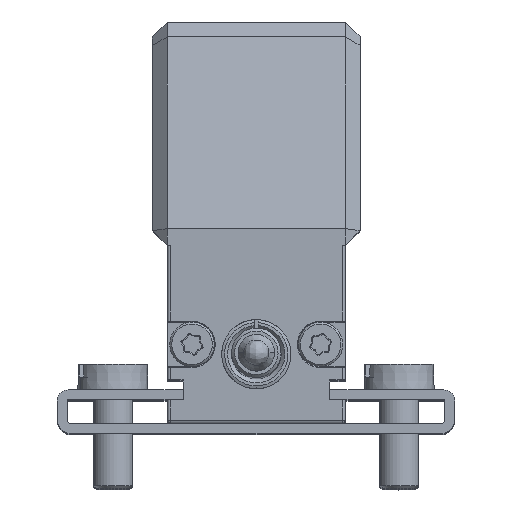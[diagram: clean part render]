
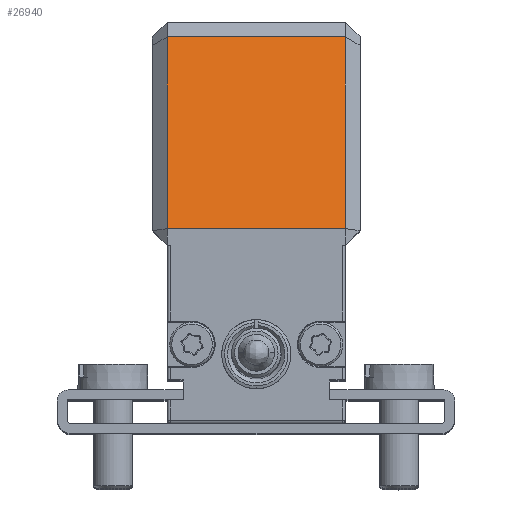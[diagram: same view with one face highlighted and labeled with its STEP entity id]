
A CAD part, top view. The second image highlights one B-rep face of the part: STEP entity #26940.
In plain terms, the highlighted planar face has unit normal (0, 0.259, 0.966).
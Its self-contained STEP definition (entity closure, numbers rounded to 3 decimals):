
#6775 = CARTESIAN_POINT ( 'NONE',  ( -9.298, -10.588, 133. ) ) ;
#6776 = DIRECTION ( 'NONE',  ( 1., 0., 0. ) ) ;
#6777 = VECTOR ( 'NONE', #6776, 1000. ) ;
#6778 = CARTESIAN_POINT ( 'NONE',  ( -10.798, -10.588, 133. ) ) ;
#6779 = LINE ( 'NONE', #6778, #6777 ) ;
#6780 = CARTESIAN_POINT ( 'NONE',  ( 8.702, -10.588, 133. ) ) ;
#7951 = DIRECTION ( 'NONE',  ( 0., 0.966, -0.259 ) ) ;
#7952 = VECTOR ( 'NONE', #7951, 1000. ) ;
#7954 = CARTESIAN_POINT ( 'NONE',  ( 8.702, -10.588, 133. ) ) ;
#7956 = LINE ( 'NONE', #7954, #7952 ) ;
#7957 = DIRECTION ( 'NONE',  ( 0., 0.966, -0.259 ) ) ;
#7958 = VECTOR ( 'NONE', #7957, 1000. ) ;
#7959 = CARTESIAN_POINT ( 'NONE',  ( -9.298, -10.588, 133. ) ) ;
#7960 = LINE ( 'NONE', #7959, #7958 ) ;
#8004 = CARTESIAN_POINT ( 'NONE',  ( -10.798, -10.588, 133. ) ) ;
#8005 = PLANE ( 'NONE',  #8062 ) ;
#8020 = FACE_OUTER_BOUND ( 'NONE', #26941, .T. ) ;
#8055 = CARTESIAN_POINT ( 'NONE',  ( 8.702, 8.812, 127.802 ) ) ;
#8056 = CARTESIAN_POINT ( 'NONE',  ( -9.298, 8.812, 127.802 ) ) ;
#8057 = DIRECTION ( 'NONE',  ( 1., 0., 0. ) ) ;
#8058 = VECTOR ( 'NONE', #8057, 1000. ) ;
#8059 = CARTESIAN_POINT ( 'NONE',  ( -10.798, 8.812, 127.802 ) ) ;
#8060 = DIRECTION ( 'NONE',  ( 0., -0.966, 0.259 ) ) ;
#8061 = DIRECTION ( 'NONE',  ( 0., 0.259, 0.966 ) ) ;
#8062 = AXIS2_PLACEMENT_3D ( 'NONE', #8004, #8061, #8060 ) ;
#8063 = LINE ( 'NONE', #8059, #8058 ) ;
#26287 = VERTEX_POINT ( 'NONE', #6780 ) ;
#26291 = EDGE_CURVE ( 'NONE', #26292, #26287, #6779, .T. ) ;
#26292 = VERTEX_POINT ( 'NONE', #6775 ) ;
#26906 = ORIENTED_EDGE ( 'NONE', *, *, #26907, .F. ) ;
#26907 = EDGE_CURVE ( 'NONE', #26292, #26944, #7960, .T. ) ;
#26908 = ORIENTED_EDGE ( 'NONE', *, *, #26291, .T. ) ;
#26909 = ORIENTED_EDGE ( 'NONE', *, *, #26911, .T. ) ;
#26911 = EDGE_CURVE ( 'NONE', #26287, #26946, #7956, .T. ) ;
#26940 = ADVANCED_FACE ( 'NONE', ( #8020 ), #8005, .T. ) ;
#26941 = EDGE_LOOP ( 'NONE', ( #26942, #26906, #26908, #26909 ) ) ;
#26942 = ORIENTED_EDGE ( 'NONE', *, *, #26943, .F. ) ;
#26943 = EDGE_CURVE ( 'NONE', #26944, #26946, #8063, .T. ) ;
#26944 = VERTEX_POINT ( 'NONE', #8056 ) ;
#26946 = VERTEX_POINT ( 'NONE', #8055 ) ;
